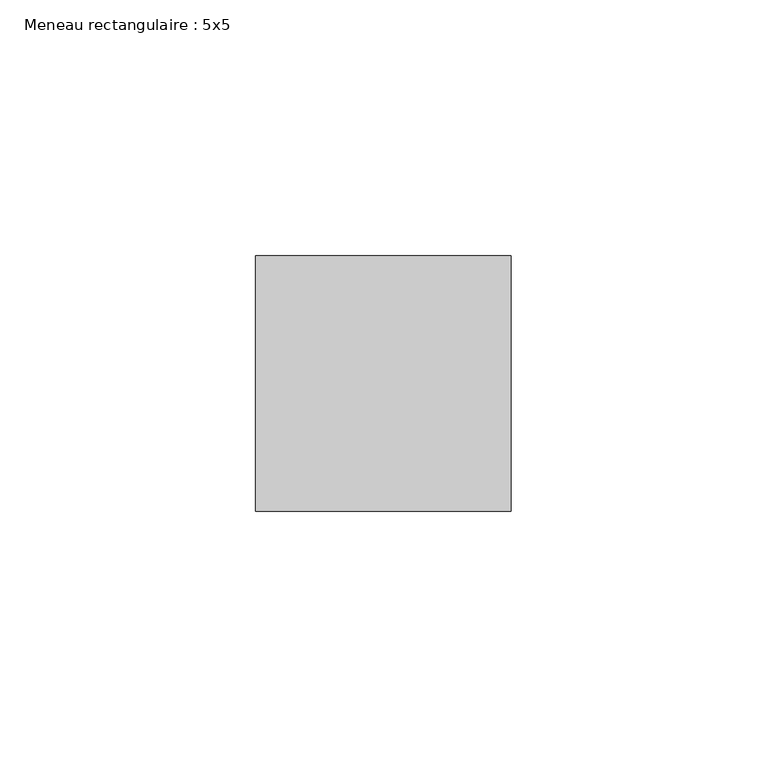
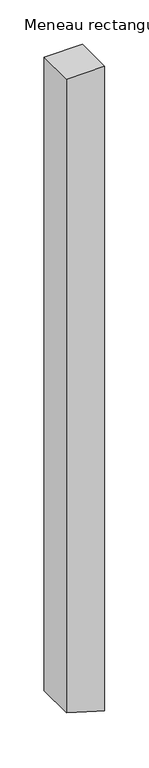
"""IFC4 building model written with IfcOpenShell, lengths in millimetres: member geometry, Meneau rectangulaire : 5x5."""

from ifc_helpers import new_model, si_unit, frame, origin, place, context, project, spatial, polyline, outline, extrude, source, transform, mapped, element, save


def meneau_rectangulaire_5x5_217da55c(model_context):
    return source(origin(), model_context, "Body", "SweptSolid", [
        extrude(outline(polyline([(0.0, 25.0), (0.0, -25.0), (-871.689843, -25.0), (-883.5000612, 14.3673943), (-886.689843, 25.0), (0.0, 25.0)])), frame((0.0, -25.0, 0.0), z_axis=(0.0, 1.0, 0.0), x_axis=(0.0, 0.0, 1.0)), (0.0, 0.0, 1.0), 50.0),
    ])


if __name__ == "__main__":
    model = new_model("IFC4")
    model_context = context("Model", 3, world=origin())
    ifc_project = project(units=[si_unit("LENGTHUNIT", "METRE", prefix="MILLI")], contexts=[model_context])
    site = spatial("IfcSite", under=ifc_project)
    building = spatial("IfcBuilding", under=site)
    placement = place(None, origin())
    meneau_rectangulaire_5x5_shape = meneau_rectangulaire_5x5_217da55c(model_context)
    element("IfcMember", 1, ObjectType="Meneau rectangulaire : 5x5", at=placement, inside=building, context=model_context, shape_type="MappedRepresentation", body=[
        mapped(meneau_rectangulaire_5x5_shape, transform((0.0, 0.0, 0.0), x_axis=(1.0, 0.0, 0.0), y_axis=(0.0, 1.0, 0.0), z_axis=(0.0, 0.0, 1.0))),
    ])
    save(model, "model.ifc")
